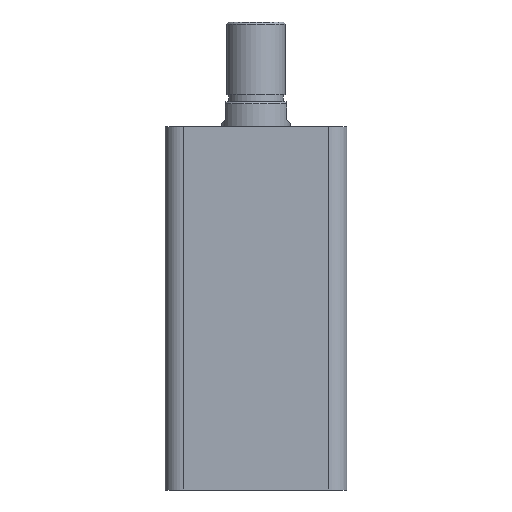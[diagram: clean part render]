
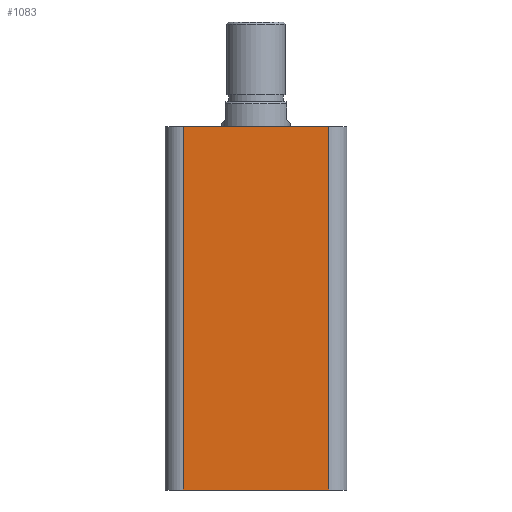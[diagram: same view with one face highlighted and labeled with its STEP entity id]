
A CAD part, front view. The second image highlights one B-rep face of the part: STEP entity #1083.
In plain terms, the highlighted planar face has unit normal (0, -1, 0).
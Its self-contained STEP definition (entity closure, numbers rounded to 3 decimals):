
#681 = EDGE_LOOP ( 'NONE', ( #1474, #1484, #1425, #1395 ) ) ;
#906 = EDGE_CURVE ( 'NONE', #1386, #1430, #1171, .T. ) ;
#907 = EDGE_CURVE ( 'NONE', #1386, #1482, #1169, .T. ) ;
#908 = EDGE_CURVE ( 'NONE', #1482, #1467, #1172, .T. ) ;
#909 = EDGE_CURVE ( 'NONE', #1467, #1430, #1165, .T. ) ;
#1083 = ADVANCED_FACE ( 'NONE', ( #2405 ), #2192, .F. ) ;
#1162 = VECTOR ( 'NONE', #2253, 1000. ) ;
#1164 = VECTOR ( 'NONE', #2255, 1000. ) ;
#1165 = LINE ( 'NONE', #2254, #1162 ) ;
#1166 = VECTOR ( 'NONE', #2256, 1000. ) ;
#1168 = VECTOR ( 'NONE', #2258, 1000. ) ;
#1169 = LINE ( 'NONE', #2257, #1166 ) ;
#1171 = LINE ( 'NONE', #2262, #1168 ) ;
#1172 = LINE ( 'NONE', #2263, #1164 ) ;
#1386 = VERTEX_POINT ( 'NONE', #2719 ) ;
#1395 = ORIENTED_EDGE ( 'NONE', *, *, #909, .T. ) ;
#1425 = ORIENTED_EDGE ( 'NONE', *, *, #908, .T. ) ;
#1430 = VERTEX_POINT ( 'NONE', #2683 ) ;
#1467 = VERTEX_POINT ( 'NONE', #2679 ) ;
#1474 = ORIENTED_EDGE ( 'NONE', *, *, #906, .F. ) ;
#1482 = VERTEX_POINT ( 'NONE', #2681 ) ;
#1484 = ORIENTED_EDGE ( 'NONE', *, *, #907, .T. ) ;
#1800 = AXIS2_PLACEMENT_3D ( 'NONE', #2196, #2189, #2188 ) ;
#2188 = DIRECTION ( 'NONE',  ( 0., 0., 1. ) ) ;
#2189 = DIRECTION ( 'NONE',  ( 0., 1., 0. ) ) ;
#2192 = PLANE ( 'NONE',  #1800 ) ;
#2196 = CARTESIAN_POINT ( 'NONE',  ( -40., -40., 160. ) ) ;
#2253 = DIRECTION ( 'NONE',  ( 0., 0., 1. ) ) ;
#2254 = CARTESIAN_POINT ( 'NONE',  ( 32., -40., 160. ) ) ;
#2255 = DIRECTION ( 'NONE',  ( 1., 0., 0. ) ) ;
#2256 = DIRECTION ( 'NONE',  ( 0., 0., -1. ) ) ;
#2257 = CARTESIAN_POINT ( 'NONE',  ( -32., -40., 160. ) ) ;
#2258 = DIRECTION ( 'NONE',  ( 1., 0., 0. ) ) ;
#2262 = CARTESIAN_POINT ( 'NONE',  ( -40., -40., 160. ) ) ;
#2263 = CARTESIAN_POINT ( 'NONE',  ( -40., -40., 0. ) ) ;
#2405 = FACE_OUTER_BOUND ( 'NONE', #681, .T. ) ;
#2679 = CARTESIAN_POINT ( 'NONE',  ( 32., -40., 0. ) ) ;
#2681 = CARTESIAN_POINT ( 'NONE',  ( -32., -40., 0. ) ) ;
#2683 = CARTESIAN_POINT ( 'NONE',  ( 32., -40., 160. ) ) ;
#2719 = CARTESIAN_POINT ( 'NONE',  ( -32., -40., 160. ) ) ;
